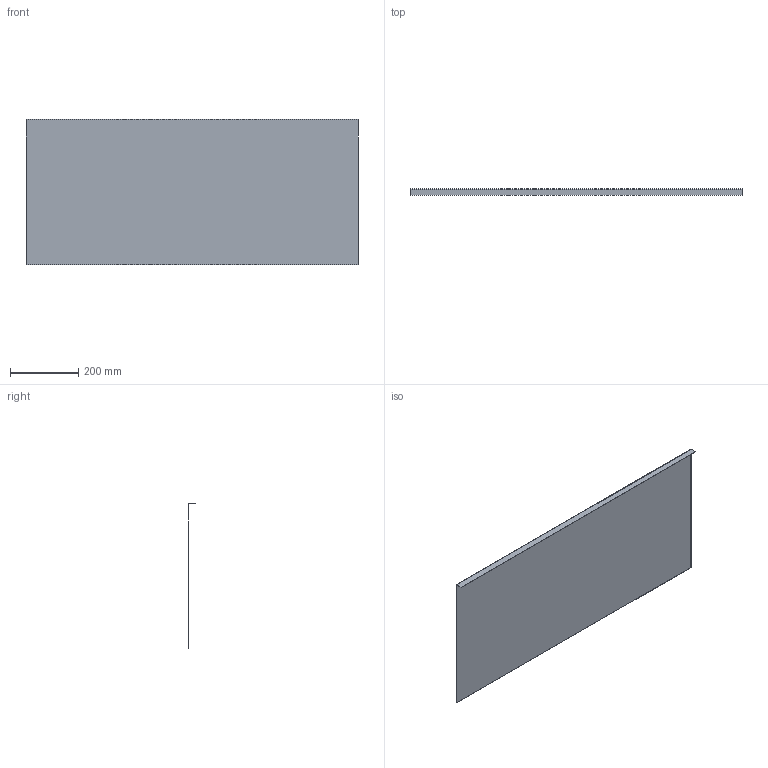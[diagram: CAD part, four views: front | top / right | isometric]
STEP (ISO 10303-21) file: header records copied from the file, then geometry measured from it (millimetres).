
FILE_DESCRIPTION((''),'2;1');
FILE_NAME('238585','2022-07-07T07:31:16',('1ke04'),('Kesseboehmer'),'CREO PARAMETRIC BY PTC INC, 2020184','CREO PARAMETRIC BY PTC INC, 2020184','');
FILE_SCHEMA(('AUTOMOTIVE_DESIGN { 1 0 10303 214 1 1 1 1 }'));
Length unit declared in the file: millimetre
Products named in the file (1): 238585
Bounding box: 973 x 19.8 x 425 mm (x, y, z)
Volume: 345308.9 mm3; surface area: 865538.9 mm2
Topology: 1 solids, 1 shells, 14 faces, 31 edges, 21 vertices
Faces by surface type: plane 12, cylinder 2
Entity records: 1084 total; most frequent: COLOUR_RGB 194, DIRECTION 88, CARTESIAN_POINT 78, PROPERTY_DEFINITION 73, REPRESENTATION 72, PROPERTY_DEFINITION_REPRESENTATION 72, ORIENTED_EDGE 56, GENERAL_PROPERTY 48
